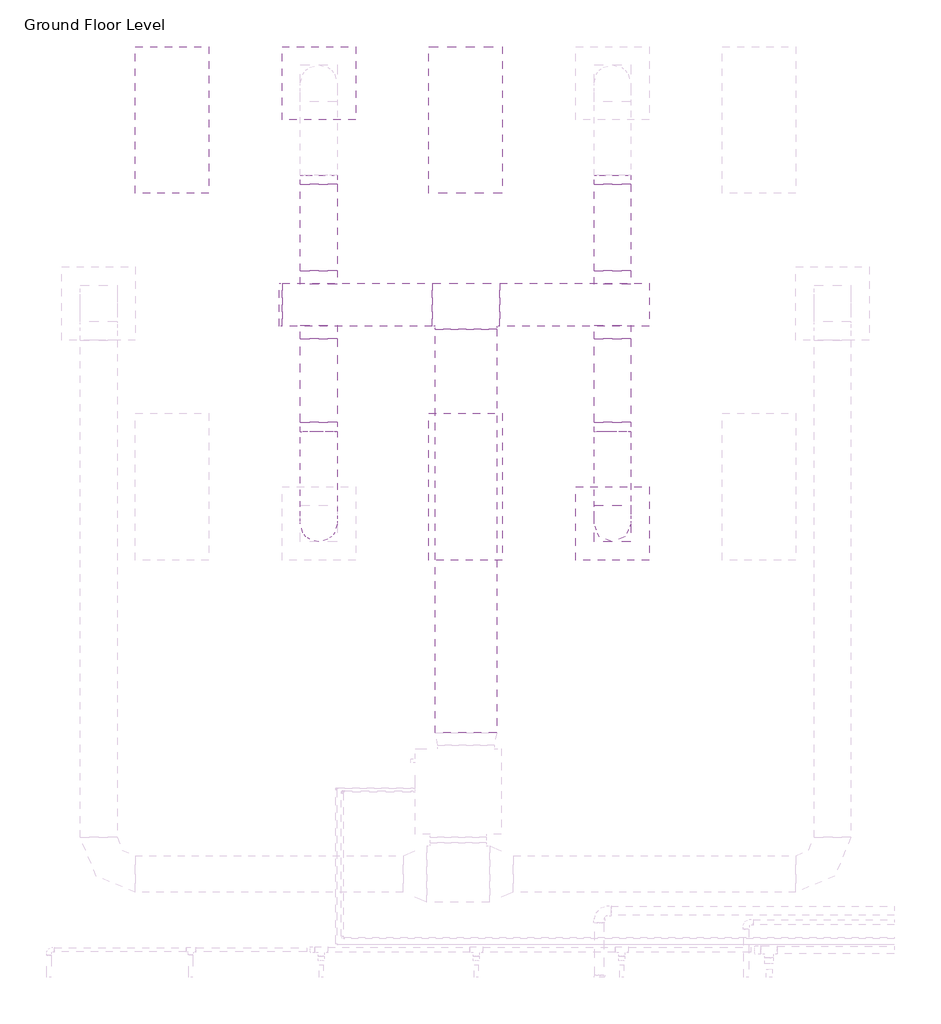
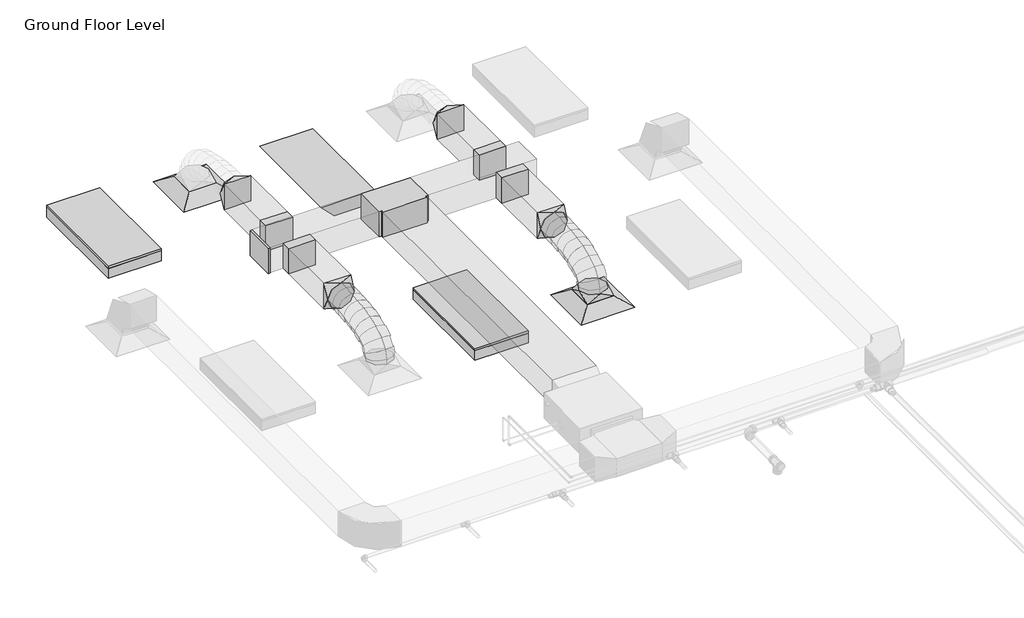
# One storey, part 54 of 74: 11 duct fittings, 9 duct segments, 3 light fixtures, 2 air terminals.
"""IFC4 building model written with IfcOpenShell, lengths in millimetres."""

from ifc_helpers import new_model, si_unit, frame, origin, place, context, project, spatial, polyline, circle_curve, ellipse_curve, outline, extrude, transform, mapped, element, save
from ifc_brep_helpers import plane_surface, cylinder_surface, advanced_brep
from components import m_return_diffuser_600_x_600_face_300_x_300_connection_ff221211, m_rectangular_endcap_standard_eed78c44, m_rectangular_takeoff_standard_cb0ccb98, m_rectangular_takeoff_standard_2be5eba1, m_rectangular_tee_standard_9fc1ddf1, m_rectangular_to_round_transition_angle_45_degree_641efff0, m_emergency_recessed_lighting_fixture_600x1200_277_5b10b25d, m_troffer_light_parabolic_rectangular1_0600x1200mm_4_lamp_86473d4a

model = new_model("IFC4")

# Units and contexts
model_context = context("Model", 3, world=origin())
ifc_project = project(units=[si_unit("LENGTHUNIT", "METRE", prefix="MILLI")], contexts=[model_context])

# Site, building, storey
site = spatial("IfcSite", under=ifc_project)
building = spatial("IfcBuilding", under=site)
storey = spatial("IfcBuildingStorey", under=building, Name="Ground Floor Level", Elevation=900.0)

# Air terminals
placement = place(None, origin())
m_return_diffuser_600_x_600_face_300_x_300_connection_shape = m_return_diffuser_600_x_600_face_300_x_300_connection_ff221211(model_context)
element("IfcAirTerminal", 1, ObjectType="M_Supply Diffuser : 600 x 600 Face 300 x 300 Connection", at=placement, inside=storey, context=model_context, shape_type="MappedRepresentation", body=[
    mapped(m_return_diffuser_600_x_600_face_300_x_300_connection_shape, transform((-19137.2327605, 20535.2153534, 3650.0), x_axis=(1.0, 0.0, 0.0), y_axis=(0.0, 1.0, 0.0), z_axis=(0.0, 0.0, 1.0))),
])
element("IfcAirTerminal", 2, ObjectType="M_Supply Diffuser : 600 x 600 Face 300 x 300 Connection", at=placement, inside=storey, context=model_context, shape_type="MappedRepresentation", body=[
    mapped(m_return_diffuser_600_x_600_face_300_x_300_connection_shape, transform((-16737.2327605, 16935.2153534, 3650.0), x_axis=(1.0, 0.0, 0.0), y_axis=(0.0, 1.0, 0.0), z_axis=(0.0, 0.0, 1.0))),
])

# Duct fittings
m_rectangular_endcap_standard_shape = m_rectangular_endcap_standard_eed78c44(model_context)
element("IfcDuctFitting", 3, ObjectType="M_Rectangular Endcap : Standard", at=placement, inside=storey, context=model_context, shape_type="MappedRepresentation", body=[
    mapped(m_rectangular_endcap_standard_shape, transform((-19437.2326293, 18724.6783949, 4099.9991374), x_axis=(-0.9999999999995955, 0.0, -8.994654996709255e-07), y_axis=(0.0, -1.0000000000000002, 0.0), z_axis=(-8.994654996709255e-07, 0.0, 0.9999999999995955))),
])
m_rectangular_takeoff_standard_shape = m_rectangular_takeoff_standard_cb0ccb98(model_context)
element("IfcDuctFitting", 4, ObjectType="M_Rectangular Takeoff : Standard", at=placement, inside=storey, context=model_context, shape_type="MappedRepresentation", body=[
    mapped(m_rectangular_takeoff_standard_shape, transform((-16737.2327605, 18899.6783949, 4099.9993619), x_axis=(0.0, 1.0, 0.0), y_axis=(1.0, 0.0, 0.0), z_axis=(0.0, 0.0, -1.0))),
])
element("IfcDuctFitting", 5, ObjectType="M_Rectangular Takeoff : Standard", at=placement, inside=storey, context=model_context, shape_type="MappedRepresentation", body=[
    mapped(m_rectangular_takeoff_standard_shape, transform((-19137.2327605, 18549.6783949, 4099.9994072), x_axis=(0.0, -1.0, 0.0), y_axis=(-1.0, 0.0, 0.0), z_axis=(0.0, 0.0, -1.0))),
])
m_rectangular_takeoff_standard_2_shape = m_rectangular_takeoff_standard_2be5eba1(model_context)
element("IfcDuctFitting", 6, ObjectType="M_Rectangular Takeoff : Standard", at=placement, inside=storey, context=model_context, shape_type="MappedRepresentation", body=[
    mapped(m_rectangular_takeoff_standard_2_shape, transform((-19137.2327605, 18899.6783949, 4099.9994072), x_axis=(0.0, 1.0, 0.0), y_axis=(1.0, 0.0, 0.0), z_axis=(0.0, 0.0, -1.0))),
])
element("IfcDuctFitting", 7, ObjectType="M_Rectangular Takeoff : Standard", at=placement, inside=storey, context=model_context, shape_type="MappedRepresentation", body=[
    mapped(m_rectangular_takeoff_standard_2_shape, transform((-16737.2327605, 18549.6783949, 4099.9993619), x_axis=(0.0, -1.0, 0.0), y_axis=(-1.0, 0.0, 0.0), z_axis=(0.0, 0.0, -1.0))),
])
m_rectangular_tee_standard_shape = m_rectangular_tee_standard_9fc1ddf1(model_context)
element("IfcDuctFitting", 8, ObjectType="M_Rectangular Tee : Standard", at=placement, inside=storey, context=model_context, shape_type="MappedRepresentation", body=[
    mapped(m_rectangular_tee_standard_shape, transform((-17933.7327605, 18724.6783949, 4100.0001212), x_axis=(0.999999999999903, 0.0, -4.406637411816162e-07), y_axis=(-1.704451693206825e-12, 0.9999999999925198, -3.867919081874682e-06), z_axis=(4.406637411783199e-07, 3.867919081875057e-06, 0.9999999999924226))),
])
m_rectangular_to_round_transition_angle_45_degree_shape = m_rectangular_to_round_transition_angle_45_degree_641efff0(model_context)
element("IfcDuctFitting", 9, ObjectType="M_Rectangular to Round Transition - Angle : 45 Degree", at=placement, inside=storey, context=model_context, shape_type="MappedRepresentation", body=[
    mapped(m_rectangular_to_round_transition_angle_45_degree_shape, transform((-19137.2327605, 19707.8788293, 4099.9994072), x_axis=(0.0, 1.0, 0.0), y_axis=(-1.0, 0.0, 0.0), z_axis=(0.0, 0.0, 1.0))),
])
element("IfcDuctFitting", 10, ObjectType="M_Rectangular to Round Transition - Angle : 45 Degree", at=placement, inside=storey, context=model_context, shape_type="MappedRepresentation", body=[
    mapped(m_rectangular_to_round_transition_angle_45_degree_shape, transform((-16737.2327605, 19707.878784, 4099.9993619), x_axis=(0.0, 1.0, 0.0), y_axis=(-1.0, 0.0, 0.0), z_axis=(0.0, 0.0, 1.0))),
])
element("IfcDuctFitting", 11, ObjectType="M_Rectangular to Round Transition - Angle : 45 Degree", at=placement, inside=storey, context=model_context, shape_type="MappedRepresentation", body=[
    mapped(m_rectangular_to_round_transition_angle_45_degree_shape, transform((-16737.2327605, 16935.2153534, 3751.6), x_axis=(0.0, 0.0, 1.0), y_axis=(-1.0, 0.0, 0.0), z_axis=(0.0, -1.0, 0.0))),
])
element("IfcDuctFitting", 12, ObjectType="M_Rectangular to Round Transition - Angle : 45 Degree", at=placement, inside=storey, context=model_context, shape_type="MappedRepresentation", body=[
    mapped(m_rectangular_to_round_transition_angle_45_degree_shape, transform((-16737.2327605, 17762.5519228, 4099.9993619), x_axis=(0.0, -1.0, 0.0), y_axis=(1.0, 0.0, 0.0), z_axis=(0.0, 0.0, 1.0))),
])
element("IfcDuctFitting", 13, ObjectType="M_Rectangular to Round Transition - Angle : 45 Degree", at=placement, inside=storey, context=model_context, shape_type="MappedRepresentation", body=[
    mapped(m_rectangular_to_round_transition_angle_45_degree_shape, transform((-19137.2327605, 17762.5518775, 4099.9994072), x_axis=(0.0, -1.0, 0.0), y_axis=(1.0, 0.0, 0.0), z_axis=(0.0, 0.0, 1.0))),
])

# Duct segments
element("IfcDuctSegment", 14, ObjectType="Flex - Round", at=placement, inside=storey, context=model_context, shape_type="AdvancedBrep", body=[
    advanced_brep(
    [(-16587.2327605, 16935.2153534, 3826.6), (-16737.2327605, 16785.2153534, 3826.6), (-16887.2327605, 16935.2153534, 3826.6), (-16737.2327605, 17085.2153534, 3826.6), (-16587.2327605, 16935.2153534, 3857.9377382), (-16737.2327605, 16785.2153534, 3883.5809933), (-16887.2327605, 16935.2153534, 3857.9377382), (-16737.2327605, 17085.2153534, 3832.2944832), (-16587.2327605, 16952.2313036, 3906.2505845), (-16737.2327605, 16818.4933649, 3978.0661927), (-16887.2327605, 16952.2313036, 3906.2505845), (-16737.2327605, 17085.9692424, 3834.4349763), (-16587.2327605, 16999.4152322, 3968.7112839), (-16737.2327605, 16895.2094421, 4079.6206836), (-16887.2327605, 16999.4152322, 3968.7112839), (-16737.2327605, 17103.6210222, 3857.8018842), (-16587.2327605, 17070.9712556, 4016.069955), (-16737.2327605, 17002.0373721, 4150.3237294), (-16887.2327605, 17070.9712556, 4016.069955), (-16737.2327605, 17139.9051391, 3881.8161806), (-16587.2327605, 17161.1034906, 4050.4144545), (-16737.2327605, 17117.5429156, 4194.3366186), (-16887.2327605, 17161.1034906, 4050.4144545), (-16737.2327605, 17204.6640657, 3906.4922903), (-16587.2327605, 17264.0160539, 4073.832639), (-16737.2327605, 17237.4553083, 4221.6231855), (-16887.2327605, 17264.0160539, 4073.832639), (-16737.2327605, 17290.5767996, 3926.0420925), (-16587.2327605, 17373.9130621, 4088.4123653), (-16737.2327605, 17358.7623148, 4237.7166441), (-16887.2327605, 17373.9130621, 4088.4123653), (-16737.2327605, 17389.0638095, 3939.1080865), (-16587.2327605, 17484.9986319, 4096.2414901), (-16737.2327605, 17477.4934243, 4246.0846137), (-16887.2327605, 17484.9986319, 4096.2414901), (-16737.2327605, 17492.5038395, 3946.3983665), (-16587.2327605, 17591.4768799, 4099.4078701), (-16737.2327605, 17588.7854577, 4249.3941429), (-16887.2327605, 17591.4768799, 4099.4078701), (-16737.2327605, 17594.1683021, 3949.4215972), (-16587.2327605, 17687.5519228, 4099.9993619), (-16737.2327605, 17688.4753894, 3950.0022045), (-16887.2327605, 17687.5519228, 4099.9993619), (-16737.2327605, 17686.6284562, 4249.9965192)],
    [
        (0, 1, circle_curve(frame((-16737.2327605, 16935.2153534, 3826.6), z_axis=(0.0, 0.0, -1.0), x_axis=(1.0, 0.0, 0.0)), 150.0)),
        (1, 2, circle_curve(frame((-16737.2327605, 16935.2153534, 3826.6), z_axis=(0.0, 0.0, -1.0), x_axis=(1.0, 0.0, 0.0)), 150.0)),
        (2, 3, circle_curve(frame((-16737.2327605, 16935.2153534, 3826.6), z_axis=(0.0, 0.0, -1.0), x_axis=(1.0, 0.0, 0.0)), 150.0)),
        (3, 0, circle_curve(frame((-16737.2327605, 16935.2153534, 3826.6), z_axis=(0.0, 0.0, -1.0), x_axis=(1.0, 0.0, 0.0)), 150.0)),
        (0, 4),
        (4, 5, ellipse_curve(frame((-16737.2327605, 16935.2153534, 3857.9377382), z_axis=(0.0, -0.16851035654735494, -0.9856998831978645), x_axis=(0.0, 0.9856998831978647, -0.16851035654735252)), 152.1761365, 150.0)),
        (5, 1),
        (5, 6, ellipse_curve(frame((-16737.2327605, 16935.2153534, 3857.9377382), z_axis=(0.0, -0.16851035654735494, -0.9856998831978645), x_axis=(0.0, 0.9856998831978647, -0.16851035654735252)), 152.1761365, 150.0)),
        (6, 2),
        (6, 7, ellipse_curve(frame((-16737.2327605, 16935.2153534, 3857.9377382), z_axis=(0.0, -0.16851035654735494, -0.9856998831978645), x_axis=(0.0, 0.9856998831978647, -0.16851035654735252)), 152.1761365, 150.0)),
        (7, 3),
        (7, 4, ellipse_curve(frame((-16737.2327605, 16935.2153534, 3857.9377382), z_axis=(0.0, -0.16851035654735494, -0.9856998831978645), x_axis=(0.0, 0.9856998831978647, -0.16851035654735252)), 152.1761365, 150.0)),
        (4, 8),
        (8, 9, ellipse_curve(frame((-16737.2327605, 16952.2313036, 3906.2505845), z_axis=(0.0, -0.47309279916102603, -0.8810126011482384), x_axis=(0.0, 0.8810126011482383, -0.4730927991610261)), 151.8002564, 150.0)),
        (9, 5),
        (9, 10, ellipse_curve(frame((-16737.2327605, 16952.2313036, 3906.2505845), z_axis=(0.0, -0.47309279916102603, -0.8810126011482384), x_axis=(0.0, 0.8810126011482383, -0.4730927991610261)), 151.8002564, 150.0)),
        (10, 6),
        (10, 11, ellipse_curve(frame((-16737.2327605, 16952.2313036, 3906.2505845), z_axis=(0.0, -0.47309279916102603, -0.8810126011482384), x_axis=(0.0, 0.8810126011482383, -0.4730927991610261)), 151.8002564, 150.0)),
        (11, 7),
        (11, 8, ellipse_curve(frame((-16737.2327605, 16952.2313036, 3906.2505845), z_axis=(0.0, -0.47309279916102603, -0.8810126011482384), x_axis=(0.0, 0.8810126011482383, -0.4730927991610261)), 151.8002564, 150.0)),
        (8, 12),
        (12, 13, ellipse_curve(frame((-16737.2327605, 16999.4152322, 3968.7112839), z_axis=(0.0, -0.7287884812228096, -0.6847388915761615), x_axis=(0.0, 0.6847388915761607, -0.7287884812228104)), 152.1832501, 150.0)),
        (13, 9),
        (13, 14, ellipse_curve(frame((-16737.2327605, 16999.4152322, 3968.7112839), z_axis=(0.0, -0.7287884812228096, -0.6847388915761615), x_axis=(0.0, 0.6847388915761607, -0.7287884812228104)), 152.1832501, 150.0)),
        (14, 10),
        (14, 15, ellipse_curve(frame((-16737.2327605, 16999.4152322, 3968.7112839), z_axis=(0.0, -0.7287884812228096, -0.6847388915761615), x_axis=(0.0, 0.6847388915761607, -0.7287884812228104)), 152.1832501, 150.0)),
        (15, 11),
        (15, 12, ellipse_curve(frame((-16737.2327605, 16999.4152322, 3968.7112839), z_axis=(0.0, -0.7287884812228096, -0.6847388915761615), x_axis=(0.0, 0.6847388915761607, -0.7287884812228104)), 152.1832501, 150.0)),
        (12, 16),
        (16, 17, ellipse_curve(frame((-16737.2327605, 17070.9712556, 4016.069955), z_axis=(0.0, -0.8895865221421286, -0.4567667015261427), x_axis=(0.0, 0.45676670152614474, -0.8895865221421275)), 150.9170508, 150.0)),
        (17, 13),
        (17, 18, ellipse_curve(frame((-16737.2327605, 17070.9712556, 4016.069955), z_axis=(0.0, -0.8895865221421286, -0.4567667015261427), x_axis=(0.0, 0.45676670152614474, -0.8895865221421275)), 150.9170508, 150.0)),
        (18, 14),
        (18, 19, ellipse_curve(frame((-16737.2327605, 17070.9712556, 4016.069955), z_axis=(0.0, -0.8895865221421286, -0.4567667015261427), x_axis=(0.0, 0.45676670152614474, -0.8895865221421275)), 150.9170508, 150.0)),
        (19, 15),
        (19, 16, ellipse_curve(frame((-16737.2327605, 17070.9712556, 4016.069955), z_axis=(0.0, -0.8895865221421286, -0.4567667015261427), x_axis=(0.0, 0.45676670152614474, -0.8895865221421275)), 150.9170508, 150.0)),
        (16, 20),
        (20, 21, ellipse_curve(frame((-16737.2327605, 17161.1034906, 4050.4144545), z_axis=(0.0, -0.9571207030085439, -0.289689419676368), x_axis=(0.0, 0.28968941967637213, -0.9571207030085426)), 150.3699206, 150.0)),
        (21, 17),
        (21, 22, ellipse_curve(frame((-16737.2327605, 17161.1034906, 4050.4144545), z_axis=(0.0, -0.9571207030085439, -0.289689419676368), x_axis=(0.0, 0.28968941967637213, -0.9571207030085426)), 150.3699206, 150.0)),
        (22, 18),
        (22, 23, ellipse_curve(frame((-16737.2327605, 17161.1034906, 4050.4144545), z_axis=(0.0, -0.9571207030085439, -0.289689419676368), x_axis=(0.0, 0.28968941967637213, -0.9571207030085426)), 150.3699206, 150.0)),
        (23, 19),
        (23, 20, ellipse_curve(frame((-16737.2327605, 17161.1034906, 4050.4144545), z_axis=(0.0, -0.9571207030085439, -0.289689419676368), x_axis=(0.0, 0.28968941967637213, -0.9571207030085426)), 150.3699206, 150.0)),
        (20, 24),
        (24, 25, ellipse_curve(frame((-16737.2327605, 17264.0160539, 4073.832639), z_axis=(0.0, -0.9842315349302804, -0.17688495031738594), x_axis=(0.0, 0.17688495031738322, -0.9842315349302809)), 150.1583126, 150.0)),
        (25, 21),
        (25, 26, ellipse_curve(frame((-16737.2327605, 17264.0160539, 4073.832639), z_axis=(0.0, -0.9842315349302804, -0.17688495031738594), x_axis=(0.0, 0.17688495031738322, -0.9842315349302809)), 150.1583126, 150.0)),
        (26, 22),
        (26, 27, ellipse_curve(frame((-16737.2327605, 17264.0160539, 4073.832639), z_axis=(0.0, -0.9842315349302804, -0.17688495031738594), x_axis=(0.0, 0.17688495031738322, -0.9842315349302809)), 150.1583126, 150.0)),
        (27, 23),
        (27, 24, ellipse_curve(frame((-16737.2327605, 17264.0160539, 4073.832639), z_axis=(0.0, -0.9842315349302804, -0.17688495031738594), x_axis=(0.0, 0.17688495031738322, -0.9842315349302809)), 150.1583126, 150.0)),
        (24, 28),
        (28, 29, ellipse_curve(frame((-16737.2327605, 17373.9130621, 4088.4123653), z_axis=(0.0, -0.9948907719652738, -0.10095717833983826), x_axis=(0.0, 0.10095717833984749, -0.9948907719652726)), 150.0710259, 150.0)),
        (29, 25),
        (29, 30, ellipse_curve(frame((-16737.2327605, 17373.9130621, 4088.4123653), z_axis=(0.0, -0.9948907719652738, -0.10095717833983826), x_axis=(0.0, 0.10095717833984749, -0.9948907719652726)), 150.0710259, 150.0)),
        (30, 26),
        (30, 31, ellipse_curve(frame((-16737.2327605, 17373.9130621, 4088.4123653), z_axis=(0.0, -0.9948907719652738, -0.10095717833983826), x_axis=(0.0, 0.10095717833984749, -0.9948907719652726)), 150.0710259, 150.0)),
        (31, 27),
        (31, 28, ellipse_curve(frame((-16737.2327605, 17373.9130621, 4088.4123653), z_axis=(0.0, -0.9948907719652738, -0.10095717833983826), x_axis=(0.0, 0.10095717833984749, -0.9948907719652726)), 150.0710259, 150.0)),
        (28, 32),
        (32, 33, ellipse_curve(frame((-16737.2327605, 17484.9986319, 4096.2414901), z_axis=(0.0, -0.9987479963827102, -0.05002439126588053), x_axis=(0.0, 0.050024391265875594, -0.9987479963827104)), 150.0309629, 150.0)),
        (33, 29),
        (33, 34, ellipse_curve(frame((-16737.2327605, 17484.9986319, 4096.2414901), z_axis=(0.0, -0.9987479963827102, -0.05002439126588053), x_axis=(0.0, 0.050024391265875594, -0.9987479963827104)), 150.0309629, 150.0)),
        (34, 30),
        (34, 35, ellipse_curve(frame((-16737.2327605, 17484.9986319, 4096.2414901), z_axis=(0.0, -0.9987479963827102, -0.05002439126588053), x_axis=(0.0, 0.050024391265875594, -0.9987479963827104)), 150.0309629, 150.0)),
        (35, 31),
        (35, 32, ellipse_curve(frame((-16737.2327605, 17484.9986319, 4096.2414901), z_axis=(0.0, -0.9987479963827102, -0.05002439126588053), x_axis=(0.0, 0.050024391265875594, -0.9987479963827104)), 150.0309629, 150.0)),
        (32, 36),
        (36, 37, ellipse_curve(frame((-16737.2327605, 17591.4768799, 4099.4078701), z_axis=(0.0, -0.9998390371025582, -0.01794156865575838), x_axis=(0.0, 0.017941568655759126, -0.9998390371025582)), 150.0104189, 150.0)),
        (37, 33),
        (37, 38, ellipse_curve(frame((-16737.2327605, 17591.4768799, 4099.4078701), z_axis=(0.0, -0.9998390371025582, -0.01794156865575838), x_axis=(0.0, 0.017941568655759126, -0.9998390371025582)), 150.0104189, 150.0)),
        (38, 34),
        (38, 39, ellipse_curve(frame((-16737.2327605, 17591.4768799, 4099.4078701), z_axis=(0.0, -0.9998390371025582, -0.01794156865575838), x_axis=(0.0, 0.017941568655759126, -0.9998390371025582)), 150.0104189, 150.0)),
        (39, 35),
        (39, 36, ellipse_curve(frame((-16737.2327605, 17591.4768799, 4099.4078701), z_axis=(0.0, -0.9998390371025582, -0.01794156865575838), x_axis=(0.0, 0.017941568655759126, -0.9998390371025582)), 150.0104189, 150.0)),
        (40, 41, circle_curve(frame((-16737.2327605, 17687.5519228, 4099.9993619), z_axis=(0.0, 0.9999810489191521, 0.006156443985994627), x_axis=(1.0, 0.0, 0.0)), 150.0)),
        (41, 42, circle_curve(frame((-16737.2327605, 17687.5519228, 4099.9993619), z_axis=(0.0, 0.9999810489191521, 0.006156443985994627), x_axis=(1.0, 0.0, 0.0)), 150.0)),
        (42, 43, circle_curve(frame((-16737.2327605, 17687.5519228, 4099.9993619), z_axis=(0.0, 0.9999810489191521, 0.006156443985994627), x_axis=(1.0, 0.0, 0.0)), 150.0)),
        (43, 40, circle_curve(frame((-16737.2327605, 17687.5519228, 4099.9993619), z_axis=(0.0, 0.9999810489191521, 0.006156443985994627), x_axis=(1.0, 0.0, 0.0)), 150.0)),
        (36, 40),
        (43, 37),
        (42, 38),
        (41, 39),
    ],
    [
        plane_surface(frame((-16737.2327605, 16785.2153534, 3826.6), z_axis=(0.0, 0.0, -1.0), x_axis=(1.0, 0.0, 0.0))),
        cylinder_surface(frame((-16737.2327605, 16935.2153534, 3826.6), z_axis=(0.0, 0.0, -1.0), x_axis=(1.0, 0.0, 0.0)), 150.0),
        cylinder_surface(frame((-16737.2327605, 16935.2153534, 3857.9377382), z_axis=(0.0, -0.3322012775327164, -0.9432085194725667), x_axis=(1.0, 0.0, 0.0)), 150.0),
        cylinder_surface(frame((-16737.2327605, 16952.2313036, 3906.2505845), z_axis=(0.0, -0.6027631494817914, -0.7979201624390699), x_axis=(1.0, 0.0, 0.0)), 150.0),
        cylinder_surface(frame((-16737.2327605, 16999.4152322, 3968.7112839), z_axis=(0.0, -0.8339031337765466, -0.5519108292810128), x_axis=(1.0, 0.0, 0.0)), 150.0),
        cylinder_surface(frame((-16737.2327605, 17070.9712556, 4016.069955), z_axis=(0.0, -0.9344587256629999, -0.35607146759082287), x_axis=(1.0, 0.0, 0.0)), 150.0),
        cylinder_surface(frame((-16737.2327605, 17161.1034906, 4050.4144545), z_axis=(0.0, -0.9750735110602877, -0.2218820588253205), x_axis=(1.0, 0.0, 0.0)), 150.0),
        cylinder_surface(frame((-16737.2327605, 17264.0160539, 4073.832639), z_axis=(0.0, -0.9913141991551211, -0.1315148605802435), x_axis=(1.0, 0.0, 0.0)), 150.0),
        cylinder_surface(frame((-16737.2327605, 17373.9130621, 4088.4123653), z_axis=(0.0, -0.9975256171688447, -0.07030393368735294), x_axis=(1.0, 0.0, 0.0)), 150.0),
        cylinder_surface(frame((-16737.2327605, 17484.9986319, 4096.2414901), z_axis=(0.0, -0.999558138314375, -0.029724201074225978), x_axis=(1.0, 0.0, 0.0)), 150.0),
        plane_surface(frame((-16737.2327605, 17686.6284562, 4249.9965192), z_axis=(0.0, 0.999981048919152, 0.0061564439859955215), x_axis=(1.0, 0.0, 0.0))),
        cylinder_surface(frame((-16737.2327605, 17591.4768799, 4099.4078701), z_axis=(0.0, -0.9999810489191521, -0.006156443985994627), x_axis=(1.0, 0.0, 0.0)), 150.0),
    ],
    [
        (0, [[1, 2, 3, 4]]),
        (1, [[-1, 5, 6, 7]]),
        (1, [[-2, -7, 8, 9]]),
        (1, [[-3, -9, 10, 11]]),
        (1, [[-4, -11, 12, -5]]),
        (2, [[-6, 13, 14, 15]]),
        (2, [[-8, -15, 16, 17]]),
        (2, [[-10, -17, 18, 19]]),
        (2, [[-12, -19, 20, -13]]),
        (3, [[-14, 21, 22, 23]]),
        (3, [[-16, -23, 24, 25]]),
        (3, [[-18, -25, 26, 27]]),
        (3, [[-20, -27, 28, -21]]),
        (4, [[-22, 29, 30, 31]]),
        (4, [[-24, -31, 32, 33]]),
        (4, [[-26, -33, 34, 35]]),
        (4, [[-28, -35, 36, -29]]),
        (5, [[-30, 37, 38, 39]]),
        (5, [[-32, -39, 40, 41]]),
        (5, [[-34, -41, 42, 43]]),
        (5, [[-36, -43, 44, -37]]),
        (6, [[-38, 45, 46, 47]]),
        (6, [[-40, -47, 48, 49]]),
        (6, [[-42, -49, 50, 51]]),
        (6, [[-44, -51, 52, -45]]),
        (7, [[-46, 53, 54, 55]]),
        (7, [[-48, -55, 56, 57]]),
        (7, [[-50, -57, 58, 59]]),
        (7, [[-52, -59, 60, -53]]),
        (8, [[-54, 61, 62, 63]]),
        (8, [[-56, -63, 64, 65]]),
        (8, [[-58, -65, 66, 67]]),
        (8, [[-60, -67, 68, -61]]),
        (9, [[-62, 69, 70, 71]]),
        (9, [[-64, -71, 72, 73]]),
        (9, [[-66, -73, 74, 75]]),
        (9, [[-68, -75, 76, -69]]),
        (10, [[77, 78, 79, 80]]),
        (11, [[-70, 81, -80, 82]]),
        (11, [[-72, -82, -79, 83]]),
        (11, [[-74, -83, -78, 84]]),
        (11, [[-76, -84, -77, -81]]),
    ],
),
])
element("IfcDuctSegment", 15, ObjectType="Flex - Round", at=placement, inside=storey, context=model_context, shape_type="AdvancedBrep", body=[
    advanced_brep(
    [(-18987.2327605, 16935.2153534, 3826.6), (-19137.2327605, 16785.2153534, 3826.6), (-19287.2327605, 16935.2153534, 3826.6), (-19137.2327605, 17085.2153534, 3826.6), (-18987.2327605, 16935.2153534, 3857.9377363), (-19137.2327605, 16785.2153534, 3883.580989), (-19287.2327605, 16935.2153534, 3857.9377363), (-19137.2327605, 17085.2153534, 3832.2944836), (-18987.2327605, 16952.2313024, 3906.2505836), (-19137.2327605, 16818.4933608, 3978.0661859), (-19287.2327605, 16952.2313024, 3906.2505836), (-19137.2327605, 17085.969244, 3834.4349814), (-18987.2327605, 16999.4152275, 3968.711286), (-19137.2327605, 16895.2094297, 4079.6206779), (-19287.2327605, 16999.4152275, 3968.711286), (-19137.2327605, 17103.6210253, 3857.8018941), (-18987.2327605, 17070.9712459, 4016.0699627), (-19137.2327605, 17002.0373501, 4150.3237308), (-19287.2327605, 17070.9712459, 4016.0699627), (-19137.2327605, 17139.9051416, 3881.8161947), (-18987.2327605, 17161.1034747, 4050.4144697), (-19137.2327605, 17117.5428863, 4194.3366298), (-19287.2327605, 17161.1034747, 4050.4144697), (-19137.2327605, 17204.6640631, 3906.4923095), (-18987.2327605, 17264.0160312, 4073.8326625), (-19137.2327605, 17237.4552729, 4221.6232067), (-19287.2327605, 17264.0160312, 4073.8326625), (-19137.2327605, 17290.5767896, 3926.0421182), (-18987.2327605, 17373.9130326, 4088.4123969), (-19137.2327605, 17358.7622742, 4237.7166746), (-19287.2327605, 17373.9130326, 4088.4123969), (-19137.2327605, 17389.0637909, 3939.1081192), (-18987.2327605, 17484.9985959, 4096.2415287), (-19137.2327605, 17477.4933798, 4246.0846519), (-19287.2327605, 17484.9985959, 4096.2415287), (-19137.2327605, 17492.5038121, 3946.3984054), (-18987.2327605, 17591.4768385, 4099.4079135), (-19137.2327605, 17588.7854112, 4249.3941863), (-19287.2327605, 17591.4768385, 4099.4079135), (-19137.2327605, 17594.1682658, 3949.4216408), (-18987.2327605, 17687.5518775, 4099.9994072), (-19137.2327605, 17688.475347, 3950.0022499), (-19287.2327605, 17687.5518775, 4099.9994072), (-19137.2327605, 17686.6284079, 4249.9965645)],
    [
        (0, 1, circle_curve(frame((-19137.2327605, 16935.2153534, 3826.6), z_axis=(0.0, 0.0, -1.0), x_axis=(1.0, 0.0, 0.0)), 150.0)),
        (1, 2, circle_curve(frame((-19137.2327605, 16935.2153534, 3826.6), z_axis=(0.0, 0.0, -1.0), x_axis=(1.0, 0.0, 0.0)), 150.0)),
        (2, 3, circle_curve(frame((-19137.2327605, 16935.2153534, 3826.6), z_axis=(0.0, 0.0, -1.0), x_axis=(1.0, 0.0, 0.0)), 150.0)),
        (3, 0, circle_curve(frame((-19137.2327605, 16935.2153534, 3826.6), z_axis=(0.0, 0.0, -1.0), x_axis=(1.0, 0.0, 0.0)), 150.0)),
        (0, 4),
        (4, 5, ellipse_curve(frame((-19137.2327605, 16935.2153534, 3857.9377363), z_axis=(0.0, -0.1685103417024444, -0.9856998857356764), x_axis=(0.0, 0.9856998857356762, -0.1685103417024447)), 152.1761361, 150.0)),
        (5, 1),
        (5, 6, ellipse_curve(frame((-19137.2327605, 16935.2153534, 3857.9377363), z_axis=(0.0, -0.1685103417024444, -0.9856998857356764), x_axis=(0.0, 0.9856998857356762, -0.1685103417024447)), 152.1761361, 150.0)),
        (6, 2),
        (6, 7, ellipse_curve(frame((-19137.2327605, 16935.2153534, 3857.9377363), z_axis=(0.0, -0.1685103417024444, -0.9856998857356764), x_axis=(0.0, 0.9856998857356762, -0.1685103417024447)), 152.1761361, 150.0)),
        (7, 3),
        (7, 4, ellipse_curve(frame((-19137.2327605, 16935.2153534, 3857.9377363), z_axis=(0.0, -0.1685103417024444, -0.9856998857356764), x_axis=(0.0, 0.9856998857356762, -0.1685103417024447)), 152.1761361, 150.0)),
        (4, 8),
        (8, 9, ellipse_curve(frame((-19137.2327605, 16952.2313024, 3906.2505836), z_axis=(0.0, -0.4730927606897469, -0.8810126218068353), x_axis=(0.0, 0.881012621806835, -0.4730927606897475)), 151.8002561, 150.0)),
        (9, 5),
        (9, 10, ellipse_curve(frame((-19137.2327605, 16952.2313024, 3906.2505836), z_axis=(0.0, -0.4730927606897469, -0.8810126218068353), x_axis=(0.0, 0.881012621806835, -0.4730927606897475)), 151.8002561, 150.0)),
        (10, 6),
        (10, 11, ellipse_curve(frame((-19137.2327605, 16952.2313024, 3906.2505836), z_axis=(0.0, -0.4730927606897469, -0.8810126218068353), x_axis=(0.0, 0.881012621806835, -0.4730927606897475)), 151.8002561, 150.0)),
        (11, 7),
        (11, 8, ellipse_curve(frame((-19137.2327605, 16952.2313024, 3906.2505836), z_axis=(0.0, -0.4730927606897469, -0.8810126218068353), x_axis=(0.0, 0.881012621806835, -0.4730927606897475)), 151.8002561, 150.0)),
        (8, 12),
        (12, 13, ellipse_curve(frame((-19137.2327605, 16999.4152275, 3968.711286), z_axis=(0.0, -0.7287884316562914, -0.6847389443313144), x_axis=(0.0, 0.6847389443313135, -0.7287884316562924)), 152.1832498, 150.0)),
        (13, 9),
        (13, 14, ellipse_curve(frame((-19137.2327605, 16999.4152275, 3968.711286), z_axis=(0.0, -0.7287884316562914, -0.6847389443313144), x_axis=(0.0, 0.6847389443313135, -0.7287884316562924)), 152.1832498, 150.0)),
        (14, 10),
        (14, 15, ellipse_curve(frame((-19137.2327605, 16999.4152275, 3968.711286), z_axis=(0.0, -0.7287884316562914, -0.6847389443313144), x_axis=(0.0, 0.6847389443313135, -0.7287884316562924)), 152.1832498, 150.0)),
        (15, 11),
        (15, 12, ellipse_curve(frame((-19137.2327605, 16999.4152275, 3968.711286), z_axis=(0.0, -0.7287884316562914, -0.6847389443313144), x_axis=(0.0, 0.6847389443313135, -0.7287884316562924)), 152.1832498, 150.0)),
        (12, 16),
        (16, 17, ellipse_curve(frame((-19137.2327605, 17070.9712459, 4016.0699627), z_axis=(0.0, -0.8895864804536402, -0.45676678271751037), x_axis=(0.0, 0.45676678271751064, -0.88958648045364)), 150.9170508, 150.0)),
        (17, 13),
        (17, 18, ellipse_curve(frame((-19137.2327605, 17070.9712459, 4016.0699627), z_axis=(0.0, -0.8895864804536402, -0.45676678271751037), x_axis=(0.0, 0.45676678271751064, -0.88958648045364)), 150.9170508, 150.0)),
        (18, 14),
        (18, 19, ellipse_curve(frame((-19137.2327605, 17070.9712459, 4016.0699627), z_axis=(0.0, -0.8895864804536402, -0.45676678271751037), x_axis=(0.0, 0.45676678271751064, -0.88958648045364)), 150.9170508, 150.0)),
        (19, 15),
        (19, 16, ellipse_curve(frame((-19137.2327605, 17070.9712459, 4016.0699627), z_axis=(0.0, -0.8895864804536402, -0.45676678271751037), x_axis=(0.0, 0.45676678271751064, -0.88958648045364)), 150.9170508, 150.0)),
        (16, 20),
        (20, 21, ellipse_curve(frame((-19137.2327605, 17161.1034747, 4050.4144697), z_axis=(0.0, -0.9571206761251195, -0.2896895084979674), x_axis=(0.0, 0.28968950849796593, -0.9571206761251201)), 150.3699207, 150.0)),
        (21, 17),
        (21, 22, ellipse_curve(frame((-19137.2327605, 17161.1034747, 4050.4144697), z_axis=(0.0, -0.9571206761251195, -0.2896895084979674), x_axis=(0.0, 0.28968950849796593, -0.9571206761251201)), 150.3699207, 150.0)),
        (22, 18),
        (22, 23, ellipse_curve(frame((-19137.2327605, 17161.1034747, 4050.4144697), z_axis=(0.0, -0.9571206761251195, -0.2896895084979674), x_axis=(0.0, 0.28968950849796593, -0.9571206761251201)), 150.3699207, 150.0)),
        (23, 19),
        (23, 20, ellipse_curve(frame((-19137.2327605, 17161.1034747, 4050.4144697), z_axis=(0.0, -0.9571206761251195, -0.2896895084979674), x_axis=(0.0, 0.28968950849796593, -0.9571206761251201)), 150.3699207, 150.0)),
        (20, 24),
        (24, 25, ellipse_curve(frame((-19137.2327605, 17264.0160312, 4073.8326625), z_axis=(0.0, -0.984231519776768, -0.17688503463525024), x_axis=(0.0, 0.17688503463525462, -0.984231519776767)), 150.1583126, 150.0)),
        (25, 21),
        (25, 26, ellipse_curve(frame((-19137.2327605, 17264.0160312, 4073.8326625), z_axis=(0.0, -0.984231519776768, -0.17688503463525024), x_axis=(0.0, 0.17688503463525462, -0.984231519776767)), 150.1583126, 150.0)),
        (26, 22),
        (26, 27, ellipse_curve(frame((-19137.2327605, 17264.0160312, 4073.8326625), z_axis=(0.0, -0.984231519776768, -0.17688503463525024), x_axis=(0.0, 0.17688503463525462, -0.984231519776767)), 150.1583126, 150.0)),
        (27, 23),
        (27, 24, ellipse_curve(frame((-19137.2327605, 17264.0160312, 4073.8326625), z_axis=(0.0, -0.984231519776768, -0.17688503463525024), x_axis=(0.0, 0.17688503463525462, -0.984231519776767)), 150.1583126, 150.0)),
        (24, 28),
        (28, 29, ellipse_curve(frame((-19137.2327605, 17373.9130326, 4088.4123969), z_axis=(0.0, -0.9948907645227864, -0.1009572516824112), x_axis=(0.0, 0.10095725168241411, -0.9948907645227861)), 150.0710259, 150.0)),
        (29, 25),
        (29, 30, ellipse_curve(frame((-19137.2327605, 17373.9130326, 4088.4123969), z_axis=(0.0, -0.9948907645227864, -0.1009572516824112), x_axis=(0.0, 0.10095725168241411, -0.9948907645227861)), 150.0710259, 150.0)),
        (30, 26),
        (30, 31, ellipse_curve(frame((-19137.2327605, 17373.9130326, 4088.4123969), z_axis=(0.0, -0.9948907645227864, -0.1009572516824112), x_axis=(0.0, 0.10095725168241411, -0.9948907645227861)), 150.0710259, 150.0)),
        (31, 27),
        (31, 28, ellipse_curve(frame((-19137.2327605, 17373.9130326, 4088.4123969), z_axis=(0.0, -0.9948907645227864, -0.1009572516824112), x_axis=(0.0, 0.10095725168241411, -0.9948907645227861)), 150.0710259, 150.0)),
        (28, 32),
        (32, 33, ellipse_curve(frame((-19137.2327605, 17484.9985959, 4096.2415287), z_axis=(0.0, -0.9987479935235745, -0.05002444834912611), x_axis=(0.0, 0.050024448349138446, -0.9987479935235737)), 150.030963, 150.0)),
        (33, 29),
        (33, 34, ellipse_curve(frame((-19137.2327605, 17484.9985959, 4096.2415287), z_axis=(0.0, -0.9987479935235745, -0.05002444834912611), x_axis=(0.0, 0.050024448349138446, -0.9987479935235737)), 150.030963, 150.0)),
        (34, 30),
        (34, 35, ellipse_curve(frame((-19137.2327605, 17484.9985959, 4096.2415287), z_axis=(0.0, -0.9987479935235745, -0.05002444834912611), x_axis=(0.0, 0.050024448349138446, -0.9987479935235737)), 150.030963, 150.0)),
        (35, 31),
        (35, 32, ellipse_curve(frame((-19137.2327605, 17484.9985959, 4096.2415287), z_axis=(0.0, -0.9987479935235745, -0.05002444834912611), x_axis=(0.0, 0.050024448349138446, -0.9987479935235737)), 150.030963, 150.0)),
        (32, 36),
        (36, 37, ellipse_curve(frame((-19137.2327605, 17591.4768385, 4099.4079135), z_axis=(0.0, -0.9998390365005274, -0.017941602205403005), x_axis=(0.0, 0.017941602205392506, -0.9998390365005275)), 150.0104189, 150.0)),
        (37, 33),
        (37, 38, ellipse_curve(frame((-19137.2327605, 17591.4768385, 4099.4079135), z_axis=(0.0, -0.9998390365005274, -0.017941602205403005), x_axis=(0.0, 0.017941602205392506, -0.9998390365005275)), 150.0104189, 150.0)),
        (38, 34),
        (38, 39, ellipse_curve(frame((-19137.2327605, 17591.4768385, 4099.4079135), z_axis=(0.0, -0.9998390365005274, -0.017941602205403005), x_axis=(0.0, 0.017941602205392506, -0.9998390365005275)), 150.0104189, 150.0)),
        (39, 35),
        (39, 36, ellipse_curve(frame((-19137.2327605, 17591.4768385, 4099.4079135), z_axis=(0.0, -0.9998390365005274, -0.017941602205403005), x_axis=(0.0, 0.017941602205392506, -0.9998390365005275)), 150.0104189, 150.0)),
        (40, 41, circle_curve(frame((-19137.2327605, 17687.5518775, 4099.9994072), z_axis=(0.0, 0.9999810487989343, 0.006156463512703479), x_axis=(1.0, 0.0, 0.0)), 150.0)),
        (41, 42, circle_curve(frame((-19137.2327605, 17687.5518775, 4099.9994072), z_axis=(0.0, 0.9999810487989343, 0.006156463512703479), x_axis=(1.0, 0.0, 0.0)), 150.0)),
        (42, 43, circle_curve(frame((-19137.2327605, 17687.5518775, 4099.9994072), z_axis=(0.0, 0.9999810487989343, 0.006156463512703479), x_axis=(1.0, 0.0, 0.0)), 150.0)),
        (43, 40, circle_curve(frame((-19137.2327605, 17687.5518775, 4099.9994072), z_axis=(0.0, 0.9999810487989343, 0.006156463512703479), x_axis=(1.0, 0.0, 0.0)), 150.0)),
        (36, 40),
        (43, 37),
        (42, 38),
        (41, 39),
    ],
    [
        plane_surface(frame((-19137.2327605, 16785.2153534, 3826.6), z_axis=(0.0, 0.0, -1.0), x_axis=(1.0, 0.0, 0.0))),
        cylinder_surface(frame((-19137.2327605, 16935.2153534, 3826.6), z_axis=(0.0, 0.0, -1.0), x_axis=(1.0, 0.0, 0.0)), 150.0),
        cylinder_surface(frame((-19137.2327605, 16935.2153534, 3857.9377363), z_axis=(0.0, -0.33220124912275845, -0.9432085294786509), x_axis=(1.0, 0.0, 0.0)), 150.0),
        cylinder_surface(frame((-19137.2327605, 16952.2313024, 3906.2505836), z_axis=(0.0, -0.6027631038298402, -0.7979201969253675), x_axis=(1.0, 0.0, 0.0)), 150.0),
        cylinder_surface(frame((-19137.2327605, 16999.4152275, 3968.711286), z_axis=(0.0, -0.833903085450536, -0.5519109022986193), x_axis=(1.0, 0.0, 0.0)), 150.0),
        cylinder_surface(frame((-19137.2327605, 17070.9712459, 4016.0699627), z_axis=(0.0, -0.9344586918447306, -0.3560715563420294), x_axis=(1.0, 0.0, 0.0)), 150.0),
        cylinder_surface(frame((-19137.2327605, 17161.1034747, 4050.4144697), z_axis=(0.0, -0.9750734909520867, -0.22188214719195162), x_axis=(1.0, 0.0, 0.0)), 150.0),
        cylinder_surface(frame((-19137.2327605, 17264.0160312, 4073.8326625), z_axis=(0.0, -0.9913141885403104, -0.13151494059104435), x_axis=(1.0, 0.0, 0.0)), 150.0),
        cylinder_surface(frame((-19137.2327605, 17373.9130326, 4088.4123969), z_axis=(0.0, -0.9975256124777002, -0.07030400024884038), x_axis=(1.0, 0.0, 0.0)), 150.0),
        cylinder_surface(frame((-19137.2327605, 17484.9985959, 4096.2415287), z_axis=(0.0, -0.9995581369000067, -0.029724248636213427), x_axis=(1.0, 0.0, 0.0)), 150.0),
        plane_surface(frame((-19137.2327605, 17686.6284079, 4249.9965645), z_axis=(0.0, 0.9999810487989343, 0.006156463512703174), x_axis=(1.0, 0.0, 0.0))),
        cylinder_surface(frame((-19137.2327605, 17591.4768385, 4099.4079135), z_axis=(0.0, -0.9999810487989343, -0.006156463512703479), x_axis=(1.0, 0.0, 0.0)), 150.0),
    ],
    [
        (0, [[1, 2, 3, 4]]),
        (1, [[-1, 5, 6, 7]]),
        (1, [[-2, -7, 8, 9]]),
        (1, [[-3, -9, 10, 11]]),
        (1, [[-4, -11, 12, -5]]),
        (2, [[-6, 13, 14, 15]]),
        (2, [[-8, -15, 16, 17]]),
        (2, [[-10, -17, 18, 19]]),
        (2, [[-12, -19, 20, -13]]),
        (3, [[-14, 21, 22, 23]]),
        (3, [[-16, -23, 24, 25]]),
        (3, [[-18, -25, 26, 27]]),
        (3, [[-20, -27, 28, -21]]),
        (4, [[-22, 29, 30, 31]]),
        (4, [[-24, -31, 32, 33]]),
        (4, [[-26, -33, 34, 35]]),
        (4, [[-28, -35, 36, -29]]),
        (5, [[-30, 37, 38, 39]]),
        (5, [[-32, -39, 40, 41]]),
        (5, [[-34, -41, 42, 43]]),
        (5, [[-36, -43, 44, -37]]),
        (6, [[-38, 45, 46, 47]]),
        (6, [[-40, -47, 48, 49]]),
        (6, [[-42, -49, 50, 51]]),
        (6, [[-44, -51, 52, -45]]),
        (7, [[-46, 53, 54, 55]]),
        (7, [[-48, -55, 56, 57]]),
        (7, [[-50, -57, 58, 59]]),
        (7, [[-52, -59, 60, -53]]),
        (8, [[-54, 61, 62, 63]]),
        (8, [[-56, -63, 64, 65]]),
        (8, [[-58, -65, 66, 67]]),
        (8, [[-60, -67, 68, -61]]),
        (9, [[-62, 69, 70, 71]]),
        (9, [[-64, -71, 72, 73]]),
        (9, [[-66, -73, 74, 75]]),
        (9, [[-68, -75, 76, -69]]),
        (10, [[77, 78, 79, 80]]),
        (11, [[-70, 81, -80, 82]]),
        (11, [[-72, -82, -79, 83]]),
        (11, [[-74, -83, -78, 84]]),
        (11, [[-76, -84, -77, -81]]),
    ],
),
])
element("IfcDuctSegment", 16, ObjectType="Radius Elbows / Taps", at=placement, inside=storey, context=model_context, shape_type="SweptSolid", body=[
    extrude(outline(polyline([(-17683.7327605, 15224.0945822), (-18183.7327605, 15224.0945822), (-18183.7327605, 18524.6783949), (-17683.7327605, 18524.6783949), (-17683.7327605, 15224.0945822)])), frame((0.0, 0.0, 3950.0008948), z_axis=(0.0, 0.0, 1.0), x_axis=(1.0, 0.0, 0.0)), (0.0, 0.0, 1.0), 300.0),
])
element("IfcDuctSegment", 17, ObjectType="Radius Elbows / Taps", at=placement, inside=storey, context=model_context, shape_type="SweptSolid", body=[
    extrude(outline(polyline([(-17658.7327605, 18549.6783949), (-17658.7327605, 18899.6783949), (-16433.7326988, 18899.6783949), (-16433.7326988, 18549.6783949), (-17658.7327605, 18549.6783949)])), frame((0.0, 0.0, 3950.0), z_axis=(0.0, 0.0, 1.0), x_axis=(1.0, 0.0, 0.0)), (0.0, 0.0, 1.0), 300.0),
])
element("IfcDuctSegment", 18, ObjectType="Radius Elbows / Taps", at=placement, inside=storey, context=model_context, shape_type="SweptSolid", body=[
    extrude(outline(polyline([(-18208.7327605, 18899.6783949), (-18208.7327605, 18549.6783949), (-19437.2326293, 18549.6783949), (-19437.2326293, 18899.6783949), (-18208.7327605, 18899.6783949)])), frame((0.0, 0.0, 3950.0002424), z_axis=(0.0, 0.0, 1.0), x_axis=(1.0, 0.0, 0.0)), (0.0, 0.0, 1.0), 300.0),
])
element("IfcDuctSegment", 19, ObjectType="Radius Elbows / Taps", at=placement, inside=storey, context=model_context, shape_type="SweptSolid", body=[
    extrude(outline(polyline([(-16587.2327605, 19001.2783949), (-16887.2327605, 19001.2783949), (-16887.2327605, 19707.878784), (-16587.2327605, 19707.878784), (-16587.2327605, 19001.2783949)])), frame((0.0, 0.0, 3949.9993619), z_axis=(0.0, 0.0, 1.0), x_axis=(1.0, 0.0, 0.0)), (0.0, 0.0, 1.0), 300.0),
])
element("IfcDuctSegment", 20, ObjectType="Radius Elbows / Taps", at=placement, inside=storey, context=model_context, shape_type="SweptSolid", body=[
    extrude(outline(polyline([(-18987.2327605, 19001.2783949), (-19287.2327605, 19001.2783949), (-19287.2327605, 19707.8788293), (-18987.2327605, 19707.8788293), (-18987.2327605, 19001.2783949)])), frame((0.0, 0.0, 3949.9994072), z_axis=(0.0, 0.0, 1.0), x_axis=(1.0, 0.0, 0.0)), (0.0, 0.0, 1.0), 300.0),
])
element("IfcDuctSegment", 21, ObjectType="Radius Elbows / Taps", at=placement, inside=storey, context=model_context, shape_type="SweptSolid", body=[
    extrude(outline(polyline([(-16887.2327605, 18448.0783949), (-16587.2327605, 18448.0783949), (-16587.2327605, 17762.5519228), (-16887.2327605, 17762.5519228), (-16887.2327605, 18448.0783949)])), frame((0.0, 0.0, 3949.9993619), z_axis=(0.0, 0.0, 1.0), x_axis=(1.0, 0.0, 0.0)), (0.0, 0.0, 1.0), 300.0),
])
element("IfcDuctSegment", 22, ObjectType="Radius Elbows / Taps", at=placement, inside=storey, context=model_context, shape_type="SweptSolid", body=[
    extrude(outline(polyline([(-19287.2327605, 18448.0783949), (-18987.2327605, 18448.0783949), (-18987.2327605, 17762.5518775), (-19287.2327605, 17762.5518775), (-19287.2327605, 18448.0783949)])), frame((0.0, 0.0, 3949.9994072), z_axis=(0.0, 0.0, 1.0), x_axis=(1.0, 0.0, 0.0)), (0.0, 0.0, 1.0), 300.0),
])

# Light fixtures
m_emergency_recessed_lighting_fixture_600x1200_277_shape = m_emergency_recessed_lighting_fixture_600x1200_277_5b10b25d(model_context)
element("IfcLightFixture", 23, ObjectType="M_Emergency Recessed Lighting Fixture : 600x1200 - 277", at=placement, inside=storey, context=model_context, shape_type="MappedRepresentation", body=[
    mapped(m_emergency_recessed_lighting_fixture_600x1200_277_shape, transform((-18237.2327605, 19635.2153534, 3650.0), x_axis=(0.0, 1.0, 0.0), y_axis=(-1.0, 0.0, 0.0), z_axis=(0.0, 0.0, 1.0))),
])
m_troffer_light_parabolic_rectangular1_0600x1200mm_4_lamp_shape = m_troffer_light_parabolic_rectangular1_0600x1200mm_4_lamp_86473d4a(model_context)
element("IfcLightFixture", 24, ObjectType="M_Troffer Light - Parabolic Rectangular1 : 0600x1200mm(4 Lamp) - 277V 2", at=placement, inside=storey, context=model_context, shape_type="MappedRepresentation", body=[
    mapped(m_troffer_light_parabolic_rectangular1_0600x1200mm_4_lamp_shape, transform((-20396.6986926, 20253.918855, 3650.0), x_axis=(0.0, 1.0, 0.0), y_axis=(-1.0, 0.0, 0.0), z_axis=(0.0, 0.0, 1.0))),
])
element("IfcLightFixture", 25, ObjectType="M_Troffer Light - Parabolic Rectangular1 : 0600x1200mm(4 Lamp) - 277V 2", at=placement, inside=storey, context=model_context, shape_type="MappedRepresentation", body=[
    mapped(m_troffer_light_parabolic_rectangular1_0600x1200mm_4_lamp_shape, transform((-17996.6986926, 17253.918855, 3650.0), x_axis=(0.0, 1.0, 0.0), y_axis=(-1.0, 0.0, 0.0), z_axis=(0.0, 0.0, 1.0))),
])

save(model, "model.ifc")
